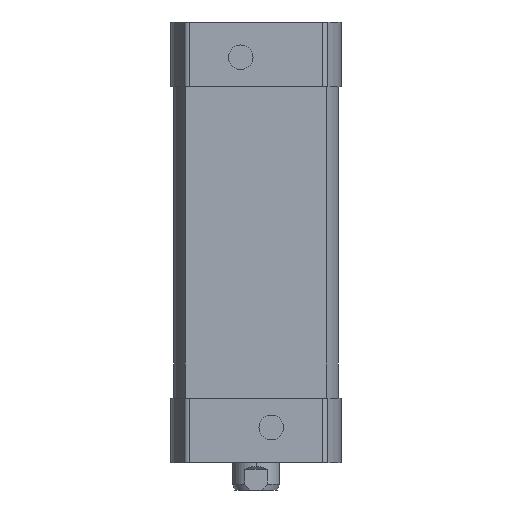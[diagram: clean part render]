
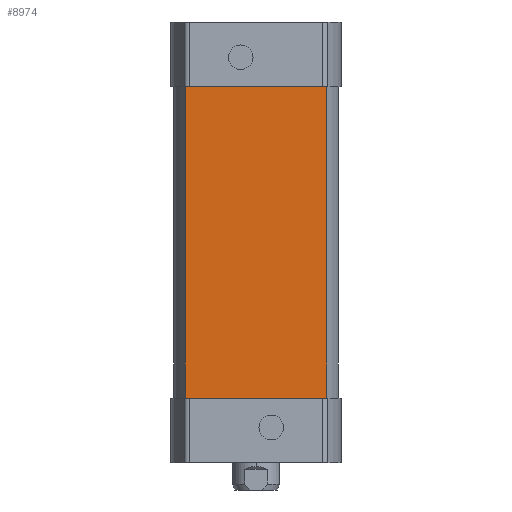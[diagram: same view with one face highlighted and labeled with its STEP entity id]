
A CAD part, left-side view. The second image highlights one B-rep face of the part: STEP entity #8974.
In plain terms, the highlighted planar face has unit normal (-1, 0, 0).
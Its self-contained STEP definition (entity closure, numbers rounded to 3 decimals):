
#652 = VERTEX_POINT ( 'NONE', #2458 ) ;
#1408 = LINE ( 'NONE', #15663, #10257 ) ;
#1510 = CARTESIAN_POINT ( 'NONE',  ( -14., 12.015, -16.5 ) ) ;
#2458 = CARTESIAN_POINT ( 'NONE',  ( -14., 12.015, 16.5 ) ) ;
#3053 = DIRECTION ( 'NONE',  ( 0., 0., 1. ) ) ;
#5404 = CARTESIAN_POINT ( 'NONE',  ( -14., -14., 16.5 ) ) ;
#5680 = DIRECTION ( 'NONE',  ( 0., 1., 0. ) ) ;
#5690 = ORIENTED_EDGE ( 'NONE', *, *, #13075, .T. ) ;
#5806 = ORIENTED_EDGE ( 'NONE', *, *, #17751, .T. ) ;
#5856 = ORIENTED_EDGE ( 'NONE', *, *, #9318, .F. ) ;
#6225 = FACE_OUTER_BOUND ( 'NONE', #6299, .T. ) ;
#6299 = EDGE_LOOP ( 'NONE', ( #5690, #5806, #14592, #5856 ) ) ;
#6777 = LINE ( 'NONE', #5404, #10965 ) ;
#7506 = DIRECTION ( 'NONE',  ( -1., 0., 0. ) ) ;
#7971 = LINE ( 'NONE', #17719, #15177 ) ;
#8544 = VECTOR ( 'NONE', #3053, 1000. ) ;
#8974 = ADVANCED_FACE ( 'NONE', ( #6225 ), #11611, .T. ) ;
#9067 = VERTEX_POINT ( 'NONE', #9578 ) ;
#9318 = EDGE_CURVE ( 'NONE', #9067, #12607, #1408, .T. ) ;
#9578 = CARTESIAN_POINT ( 'NONE',  ( -14., -12.015, -36.5 ) ) ;
#9914 = DIRECTION ( 'NONE',  ( 0., 1., 0. ) ) ;
#10257 = VECTOR ( 'NONE', #9914, 1000. ) ;
#10292 = LINE ( 'NONE', #1510, #8544 ) ;
#10345 = DIRECTION ( 'NONE',  ( 0., 0., 1. ) ) ;
#10533 = AXIS2_PLACEMENT_3D ( 'NONE', #15903, #7506, #10345 ) ;
#10965 = VECTOR ( 'NONE', #5680, 1000. ) ;
#11611 = PLANE ( 'NONE',  #10533 ) ;
#12607 = VERTEX_POINT ( 'NONE', #16121 ) ;
#13075 = EDGE_CURVE ( 'NONE', #9067, #16062, #7971, .T. ) ;
#14592 = ORIENTED_EDGE ( 'NONE', *, *, #15196, .F. ) ;
#14944 = CARTESIAN_POINT ( 'NONE',  ( -14., -12.015, 16.5 ) ) ;
#15177 = VECTOR ( 'NONE', #16355, 1000. ) ;
#15196 = EDGE_CURVE ( 'NONE', #12607, #652, #10292, .T. ) ;
#15663 = CARTESIAN_POINT ( 'NONE',  ( -14., -12.015, -36.5 ) ) ;
#15903 = CARTESIAN_POINT ( 'NONE',  ( -14., -14., -16.5 ) ) ;
#16062 = VERTEX_POINT ( 'NONE', #14944 ) ;
#16121 = CARTESIAN_POINT ( 'NONE',  ( -14., 12.015, -36.5 ) ) ;
#16355 = DIRECTION ( 'NONE',  ( 0., 0., 1. ) ) ;
#17719 = CARTESIAN_POINT ( 'NONE',  ( -14., -12.015, -16.5 ) ) ;
#17751 = EDGE_CURVE ( 'NONE', #16062, #652, #6777, .T. ) ;
